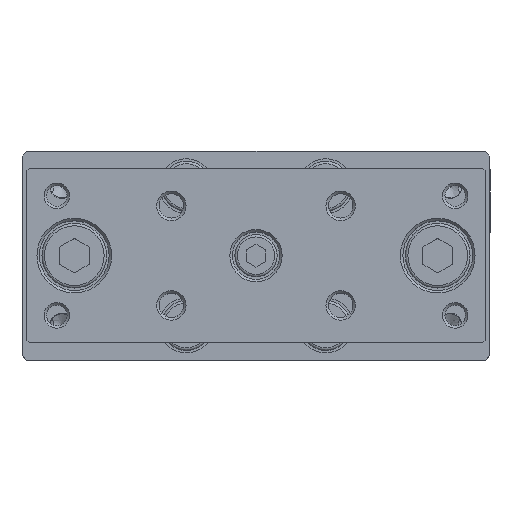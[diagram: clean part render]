
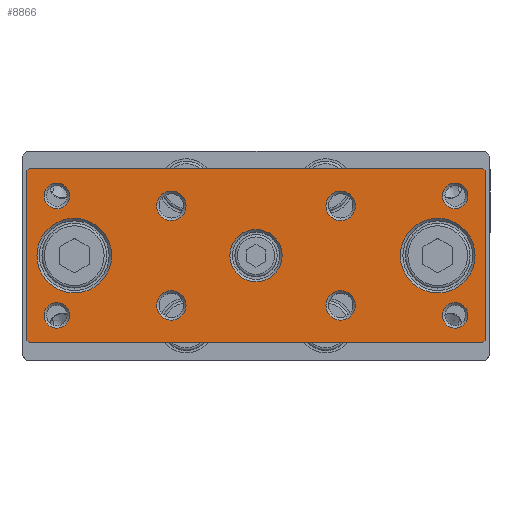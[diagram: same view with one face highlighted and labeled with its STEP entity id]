
A CAD part, top view. The second image highlights one B-rep face of the part: STEP entity #8866.
In plain terms, the highlighted planar face has unit normal (0, 0, 1).
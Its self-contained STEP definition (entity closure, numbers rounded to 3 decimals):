
#7566=CARTESIAN_POINT('',(42.976,19.784,108.2));
#7567=VERTEX_POINT('',#7566);
#7568=CARTESIAN_POINT('',(43.476,19.284,108.2));
#7569=VERTEX_POINT('',#7568);
#7570=CARTESIAN_POINT('',(42.976,19.784,108.2));
#7571=DIRECTION('',(0.707,-0.707,0.0));
#7572=VECTOR('',#7571,0.707);
#7573=LINE('',#7570,#7572);
#7574=EDGE_CURVE('',#7567,#7569,#7573,.T.);
#7708=CARTESIAN_POINT('',(-48.024,19.784,108.2));
#7709=VERTEX_POINT('',#7708);
#7718=CARTESIAN_POINT('',(42.976,19.784,108.2));
#7719=DIRECTION('',(-1.0,0.0,0.0));
#7720=VECTOR('',#7719,91.);
#7721=LINE('',#7718,#7720);
#7722=EDGE_CURVE('',#7567,#7709,#7721,.T.);
#7767=CARTESIAN_POINT('',(43.476,-14.716,108.2));
#7768=VERTEX_POINT('',#7767);
#7782=CARTESIAN_POINT('',(43.476,-14.716,108.2));
#7783=DIRECTION('',(0.0,1.0,0.0));
#7784=VECTOR('',#7783,34.0);
#7785=LINE('',#7782,#7784);
#7786=EDGE_CURVE('',#7768,#7569,#7785,.T.);
#7805=CARTESIAN_POINT('',(42.976,-15.216,108.2));
#7806=VERTEX_POINT('',#7805);
#7807=CARTESIAN_POINT('',(43.476,-14.716,108.2));
#7808=DIRECTION('',(-0.707,-0.707,0.0));
#7809=VECTOR('',#7808,0.707);
#7810=LINE('',#7807,#7809);
#7811=EDGE_CURVE('',#7768,#7806,#7810,.T.);
#7827=CARTESIAN_POINT('',(-48.024,-15.216,108.2));
#7828=VERTEX_POINT('',#7827);
#7829=CARTESIAN_POINT('',(-48.524,-14.716,108.2));
#7830=VERTEX_POINT('',#7829);
#7831=CARTESIAN_POINT('',(-48.024,-15.216,108.2));
#7832=DIRECTION('',(-0.707,0.707,0.0));
#7833=VECTOR('',#7832,0.707);
#7834=LINE('',#7831,#7833);
#7835=EDGE_CURVE('',#7828,#7830,#7834,.T.);
#7935=CARTESIAN_POINT('',(-48.024,-15.216,108.2));
#7936=DIRECTION('',(1.0,0.0,0.0));
#7937=VECTOR('',#7936,91.);
#7938=LINE('',#7935,#7937);
#7939=EDGE_CURVE('',#7828,#7806,#7938,.T.);
#8123=CARTESIAN_POINT('',(-48.524,19.284,108.2));
#8124=VERTEX_POINT('',#8123);
#8133=CARTESIAN_POINT('',(-48.524,19.284,108.2));
#8134=DIRECTION('',(0.0,-1.0,0.0));
#8135=VECTOR('',#8134,34.0);
#8136=LINE('',#8133,#8135);
#8137=EDGE_CURVE('',#8124,#7830,#8136,.T.);
#8149=CARTESIAN_POINT('',(-48.524,19.284,108.2));
#8150=DIRECTION('',(0.707,0.707,0.0));
#8151=VECTOR('',#8150,0.707);
#8152=LINE('',#8149,#8151);
#8153=EDGE_CURVE('',#8124,#7709,#8152,.T.);
#8208=CARTESIAN_POINT('',(2.726,2.284,108.2));
#8209=VERTEX_POINT('',#8208);
#8210=CARTESIAN_POINT('',(-2.524,2.284,108.2));
#8211=DIRECTION('',(0.0,0.0,1.0));
#8212=DIRECTION('',(-1.0,0.0,0.0));
#8213=AXIS2_PLACEMENT_3D('',#8210,#8211,#8212);
#8214=CIRCLE('',#8213,5.25);
#8215=EDGE_CURVE('',#8209,#8209,#8214,.T.);
#8269=CARTESIAN_POINT('',(-39.957,14.284,108.2));
#8270=VERTEX_POINT('',#8269);
#8271=CARTESIAN_POINT('',(-42.524,14.284,108.2));
#8272=DIRECTION('',(0.0,0.0,1.0));
#8273=DIRECTION('',(-1.0,0.0,0.0));
#8274=AXIS2_PLACEMENT_3D('',#8271,#8272,#8273);
#8275=CIRCLE('',#8274,2.567);
#8276=EDGE_CURVE('',#8270,#8270,#8275,.T.);
#8330=CARTESIAN_POINT('',(41.476,2.284,108.2));
#8331=VERTEX_POINT('',#8330);
#8332=CARTESIAN_POINT('',(33.976,2.284,108.2));
#8333=DIRECTION('',(0.0,0.0,1.0));
#8334=DIRECTION('',(-1.0,0.0,0.0));
#8335=AXIS2_PLACEMENT_3D('',#8332,#8333,#8334);
#8336=CIRCLE('',#8335,7.5);
#8337=EDGE_CURVE('',#8331,#8331,#8336,.T.);
#8391=CARTESIAN_POINT('',(-39.957,-9.716,108.2));
#8392=VERTEX_POINT('',#8391);
#8393=CARTESIAN_POINT('',(-42.524,-9.716,108.2));
#8394=DIRECTION('',(0.0,0.0,1.0));
#8395=DIRECTION('',(-1.0,0.0,0.0));
#8396=AXIS2_PLACEMENT_3D('',#8393,#8394,#8395);
#8397=CIRCLE('',#8396,2.567);
#8398=EDGE_CURVE('',#8392,#8392,#8397,.T.);
#8452=CARTESIAN_POINT('',(-31.524,2.284,108.2));
#8453=VERTEX_POINT('',#8452);
#8454=CARTESIAN_POINT('',(-39.024,2.284,108.2));
#8455=DIRECTION('',(0.0,0.0,1.0));
#8456=DIRECTION('',(-1.0,0.0,0.0));
#8457=AXIS2_PLACEMENT_3D('',#8454,#8455,#8456);
#8458=CIRCLE('',#8457,7.5);
#8459=EDGE_CURVE('',#8453,#8453,#8458,.T.);
#8513=CARTESIAN_POINT('',(40.043,-9.716,108.2));
#8514=VERTEX_POINT('',#8513);
#8515=CARTESIAN_POINT('',(37.476,-9.716,108.2));
#8516=DIRECTION('',(0.0,0.0,1.0));
#8517=DIRECTION('',(-1.0,0.0,0.0));
#8518=AXIS2_PLACEMENT_3D('',#8515,#8516,#8517);
#8519=CIRCLE('',#8518,2.567);
#8520=EDGE_CURVE('',#8514,#8514,#8519,.T.);
#8574=CARTESIAN_POINT('',(17.434,-7.716,108.2));
#8575=VERTEX_POINT('',#8574);
#8576=CARTESIAN_POINT('',(14.476,-7.716,108.2));
#8577=DIRECTION('',(0.0,0.0,1.0));
#8578=DIRECTION('',(-1.0,0.0,0.0));
#8579=AXIS2_PLACEMENT_3D('',#8576,#8577,#8578);
#8580=CIRCLE('',#8579,2.959);
#8581=EDGE_CURVE('',#8575,#8575,#8580,.T.);
#8635=CARTESIAN_POINT('',(40.043,14.284,108.2));
#8636=VERTEX_POINT('',#8635);
#8637=CARTESIAN_POINT('',(37.476,14.284,108.2));
#8638=DIRECTION('',(0.0,0.0,1.0));
#8639=DIRECTION('',(-1.0,0.0,0.0));
#8640=AXIS2_PLACEMENT_3D('',#8637,#8638,#8639);
#8641=CIRCLE('',#8640,2.567);
#8642=EDGE_CURVE('',#8636,#8636,#8641,.T.);
#8696=CARTESIAN_POINT('',(-16.566,-7.716,108.2));
#8697=VERTEX_POINT('',#8696);
#8698=CARTESIAN_POINT('',(-19.524,-7.716,108.2));
#8699=DIRECTION('',(0.0,0.0,1.0));
#8700=DIRECTION('',(-1.0,0.0,0.0));
#8701=AXIS2_PLACEMENT_3D('',#8698,#8699,#8700);
#8702=CIRCLE('',#8701,2.958);
#8703=EDGE_CURVE('',#8697,#8697,#8702,.T.);
#8757=CARTESIAN_POINT('',(-16.566,12.284,108.2));
#8758=VERTEX_POINT('',#8757);
#8759=CARTESIAN_POINT('',(-19.524,12.284,108.2));
#8760=DIRECTION('',(0.0,0.0,1.0));
#8761=DIRECTION('',(-1.0,0.0,0.0));
#8762=AXIS2_PLACEMENT_3D('',#8759,#8760,#8761);
#8763=CIRCLE('',#8762,2.958);
#8764=EDGE_CURVE('',#8758,#8758,#8763,.T.);
#8810=CARTESIAN_POINT('',(-48.524,2.284,108.2));
#8811=DIRECTION('',(0.0,0.0,1.0));
#8812=DIRECTION('',(1.0,0.0,0.0));
#8813=AXIS2_PLACEMENT_3D('',#8810,#8811,#8812);
#8814=PLANE('',#8813);
#8815=ORIENTED_EDGE('',*,*,#8153,.F.);
#8816=ORIENTED_EDGE('',*,*,#8137,.T.);
#8817=ORIENTED_EDGE('',*,*,#7835,.F.);
#8818=ORIENTED_EDGE('',*,*,#7939,.T.);
#8819=ORIENTED_EDGE('',*,*,#7811,.F.);
#8820=ORIENTED_EDGE('',*,*,#7786,.T.);
#8821=ORIENTED_EDGE('',*,*,#7574,.F.);
#8822=ORIENTED_EDGE('',*,*,#7722,.T.);
#8823=EDGE_LOOP('',(#8815,#8816,#8817,#8818,#8819,#8820,#8821,#8822));
#8824=FACE_OUTER_BOUND('',#8823,.T.);
#8825=ORIENTED_EDGE('',*,*,#8764,.F.);
#8826=EDGE_LOOP('',(#8825));
#8827=FACE_BOUND('',#8826,.T.);
#8828=ORIENTED_EDGE('',*,*,#8642,.F.);
#8829=EDGE_LOOP('',(#8828));
#8830=FACE_BOUND('',#8829,.T.);
#8831=ORIENTED_EDGE('',*,*,#8520,.F.);
#8832=EDGE_LOOP('',(#8831));
#8833=FACE_BOUND('',#8832,.T.);
#8834=ORIENTED_EDGE('',*,*,#8398,.F.);
#8835=EDGE_LOOP('',(#8834));
#8836=FACE_BOUND('',#8835,.T.);
#8837=ORIENTED_EDGE('',*,*,#8276,.F.);
#8838=EDGE_LOOP('',(#8837));
#8839=FACE_BOUND('',#8838,.T.);
#8840=ORIENTED_EDGE('',*,*,#8215,.F.);
#8841=EDGE_LOOP('',(#8840));
#8842=FACE_BOUND('',#8841,.T.);
#8843=ORIENTED_EDGE('',*,*,#8337,.F.);
#8844=EDGE_LOOP('',(#8843));
#8845=FACE_BOUND('',#8844,.T.);
#8846=ORIENTED_EDGE('',*,*,#8459,.F.);
#8847=EDGE_LOOP('',(#8846));
#8848=FACE_BOUND('',#8847,.T.);
#8849=ORIENTED_EDGE('',*,*,#8581,.F.);
#8850=EDGE_LOOP('',(#8849));
#8851=FACE_BOUND('',#8850,.T.);
#8852=ORIENTED_EDGE('',*,*,#8703,.F.);
#8853=EDGE_LOOP('',(#8852));
#8854=FACE_BOUND('',#8853,.T.);
#8855=CARTESIAN_POINT('',(17.434,12.284,108.2));
#8856=VERTEX_POINT('',#8855);
#8857=CARTESIAN_POINT('',(14.476,12.284,108.2));
#8858=DIRECTION('',(0.0,0.0,1.0));
#8859=DIRECTION('',(-1.0,0.0,0.0));
#8860=AXIS2_PLACEMENT_3D('',#8857,#8858,#8859);
#8861=CIRCLE('',#8860,2.959);
#8862=EDGE_CURVE('',#8856,#8856,#8861,.T.);
#8863=ORIENTED_EDGE('',*,*,#8862,.F.);
#8864=EDGE_LOOP('',(#8863));
#8865=FACE_BOUND('',#8864,.T.);
#8866=ADVANCED_FACE('',(#8824,#8827,#8830,#8833,#8836,#8839,#8842,#8845,#8848,#8851,#8854,#8865),#8814,.T.);
